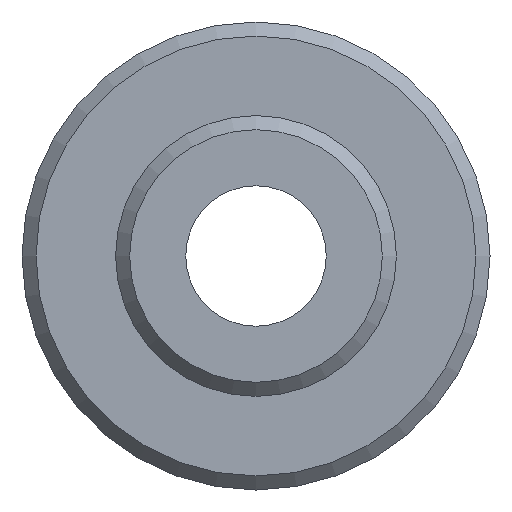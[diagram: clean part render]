
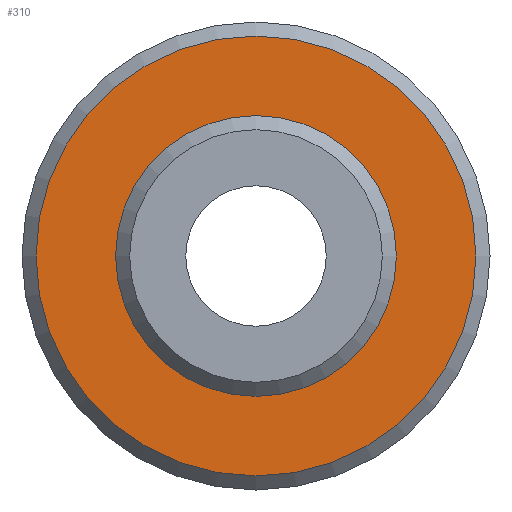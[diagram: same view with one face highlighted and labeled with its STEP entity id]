
A CAD part, front view. The second image highlights one B-rep face of the part: STEP entity #310.
In plain terms, the highlighted planar face has unit normal (0, -1, 0).
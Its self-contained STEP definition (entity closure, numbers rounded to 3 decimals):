
#21=FACE_BOUND('',#104,.T.);
#28=PLANE('',#378);
#78=FACE_OUTER_BOUND('',#103,.T.);
#103=EDGE_LOOP('',(#263));
#104=EDGE_LOOP('',(#264));
#138=CIRCLE('',#377,4.7);
#139=CIRCLE('',#379,3.);
#164=VERTEX_POINT('',#570);
#165=VERTEX_POINT('',#574);
#200=EDGE_CURVE('',#164,#164,#138,.T.);
#201=EDGE_CURVE('',#165,#165,#139,.T.);
#263=ORIENTED_EDGE('',*,*,#200,.F.);
#264=ORIENTED_EDGE('',*,*,#201,.T.);
#310=ADVANCED_FACE('',(#78,#21),#28,.T.);
#377=AXIS2_PLACEMENT_3D('',#572,#472,#473);
#378=AXIS2_PLACEMENT_3D('',#573,#474,#475);
#379=AXIS2_PLACEMENT_3D('',#575,#476,#477);
#472=DIRECTION('center_axis',(0.,1.,0.));
#473=DIRECTION('ref_axis',(-1.,0.,0.));
#474=DIRECTION('center_axis',(0.,-1.,0.));
#475=DIRECTION('ref_axis',(0.,0.,-1.));
#476=DIRECTION('center_axis',(0.,1.,0.));
#477=DIRECTION('ref_axis',(1.,0.,0.));
#570=CARTESIAN_POINT('',(4.7,15.2,0.));
#572=CARTESIAN_POINT('Origin',(0.,15.2,0.));
#573=CARTESIAN_POINT('Origin',(5.,15.2,0.));
#574=CARTESIAN_POINT('',(-3.,15.2,0.));
#575=CARTESIAN_POINT('Origin',(0.,15.2,0.));
